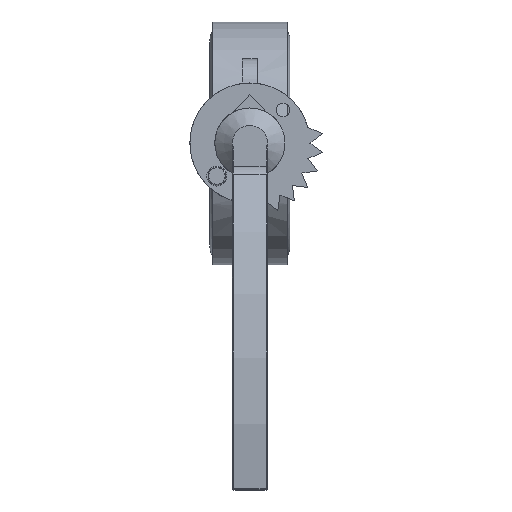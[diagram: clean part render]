
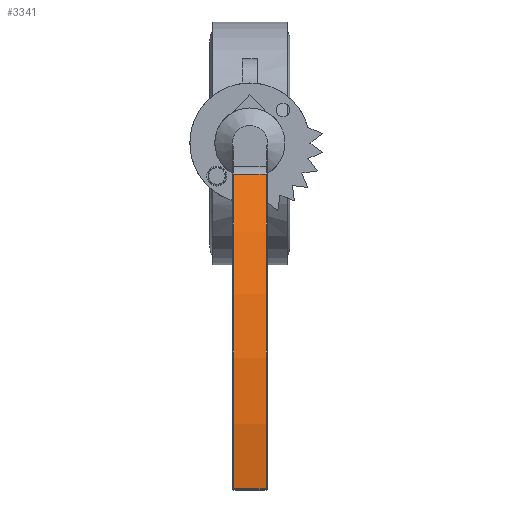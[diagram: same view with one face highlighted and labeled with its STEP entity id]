
A CAD part, top view. The second image highlights one B-rep face of the part: STEP entity #3341.
In plain terms, the highlighted cylindrical face has radius 336.106 mm (diameter 672.212 mm), a partial arc.
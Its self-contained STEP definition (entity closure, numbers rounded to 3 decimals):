
#3341=ADVANCED_FACE('',(#7159),#7161,.T.);
#7159=FACE_BOUND('',#7160,.T.);
#7160=EDGE_LOOP('',(#10560,#10561,#10562,#10563));
#7161=CYLINDRICAL_SURFACE('',#7162,336.106);
#7162=AXIS2_PLACEMENT_3D('',#7163,#7164,#7165);
#7163=CARTESIAN_POINT('',(203.802,-13.125,-259.098));
#7164=DIRECTION('',(0.,1.,0.));
#7165=DIRECTION('',(-0.536,0.,0.844));
#10560=ORIENTED_EDGE('',*,*,#11952,.F.);
#10561=ORIENTED_EDGE('',*,*,#11977,.F.);
#10562=ORIENTED_EDGE('',*,*,#11970,.T.);
#10563=ORIENTED_EDGE('',*,*,#11978,.T.);
#11952=EDGE_CURVE('',#14064,#14067,#14068,.T.);
#11970=EDGE_CURVE('',#14092,#14093,#14094,.T.);
#11977=EDGE_CURVE('',#14092,#14064,#14101,.T.);
#11978=EDGE_CURVE('',#14093,#14067,#14102,.T.);
#14064=VERTEX_POINT('',#21212);
#14067=VERTEX_POINT('',#21221);
#14068=CIRCLE('',#21222,336.106);
#14092=VERTEX_POINT('',#21289);
#14093=VERTEX_POINT('',#21290);
#14094=CIRCLE('',#21291,336.106);
#14101=LINE('',#21354,#21355);
#14102=LINE('',#21357,#21358);
#21212=CARTESIAN_POINT('',(23.517,12.125,24.565));
#21221=CARTESIAN_POINT('',(259.165,12.125,72.417));
#21222=AXIS2_PLACEMENT_3D('',#21223,#21224,#21225);
#21223=CARTESIAN_POINT('',(203.802,12.125,-259.098));
#21224=DIRECTION('',(0.,1.,0.));
#21225=DIRECTION('',(-0.536,0.,0.844));
#21289=CARTESIAN_POINT('',(23.517,-12.125,24.565));
#21290=CARTESIAN_POINT('',(259.165,-12.125,72.417));
#21291=AXIS2_PLACEMENT_3D('',#21292,#21293,#21294);
#21292=CARTESIAN_POINT('',(203.802,-12.125,-259.098));
#21293=DIRECTION('',(0.,1.,0.));
#21294=DIRECTION('',(-0.536,0.,0.844));
#21354=CARTESIAN_POINT('',(23.517,-12.125,24.565));
#21355=VECTOR('',#21356,1.);
#21356=DIRECTION('',(0.,1.,0.));
#21357=CARTESIAN_POINT('',(259.165,-12.125,72.417));
#21358=VECTOR('',#21359,1.);
#21359=DIRECTION('',(0.,1.,0.));
